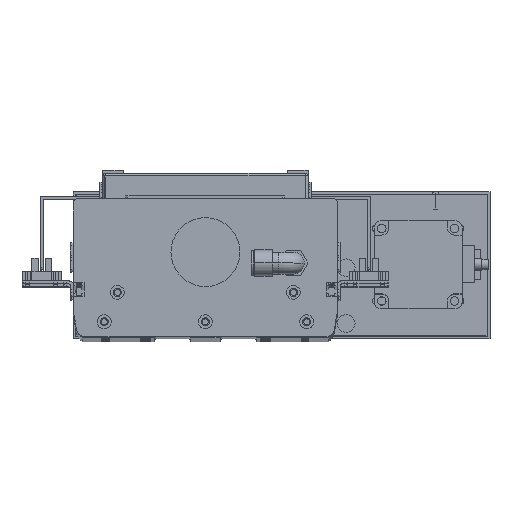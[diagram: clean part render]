
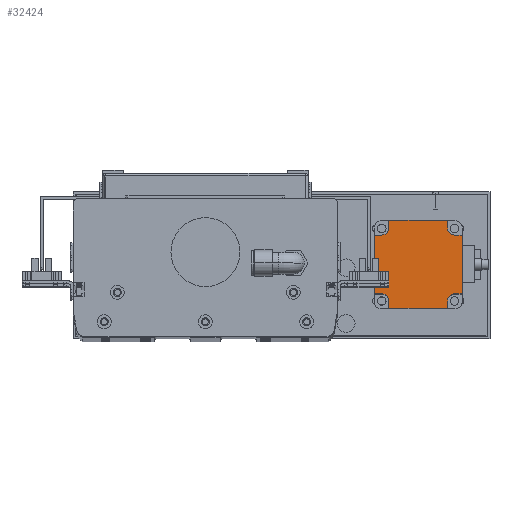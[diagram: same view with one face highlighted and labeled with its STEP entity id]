
A CAD part, top view. The second image highlights one B-rep face of the part: STEP entity #32424.
In plain terms, the highlighted planar face has unit normal (0, 0, 1).
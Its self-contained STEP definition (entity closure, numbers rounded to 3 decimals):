
#32293 = EDGE_CURVE ( 'NONE', #32296, #32874, #47461, .T. ) ;
#32296 = VERTEX_POINT ( 'NONE', #47479 ) ;
#32424 = ADVANCED_FACE ( 'NONE', ( #47800 ), #47799, .F. ) ;
#32427 = EDGE_LOOP ( 'NONE', ( #32428, #32742, #32901, #32781, #32800, #32902, #32903, #32915, #32919, #32775, #32870, #32739, #32889, #32911, #32885, #32848 ) ) ;
#32428 = ORIENTED_EDGE ( 'NONE', *, *, #32782, .T. ) ;
#32726 = VERTEX_POINT ( 'NONE', #48140 ) ;
#32735 = EDGE_CURVE ( 'NONE', #32726, #33102, #48138, .T. ) ;
#32739 = ORIENTED_EDGE ( 'NONE', *, *, #32740, .F. ) ;
#32740 = EDGE_CURVE ( 'NONE', #32874, #32872, #48268, .T. ) ;
#32742 = ORIENTED_EDGE ( 'NONE', *, *, #32908, .F. ) ;
#32746 = EDGE_CURVE ( 'NONE', #32866, #32909, #48269, .T. ) ;
#32760 = EDGE_CURVE ( 'NONE', #33102, #32898, #48203, .T. ) ;
#32762 = VERTEX_POINT ( 'NONE', #48199 ) ;
#32766 = VERTEX_POINT ( 'NONE', #48193 ) ;
#32774 = VERTEX_POINT ( 'NONE', #48188 ) ;
#32775 = ORIENTED_EDGE ( 'NONE', *, *, #32797, .F. ) ;
#32781 = ORIENTED_EDGE ( 'NONE', *, *, #32928, .F. ) ;
#32782 = EDGE_CURVE ( 'NONE', #32909, #32766, #48166, .T. ) ;
#32797 = EDGE_CURVE ( 'NONE', #32798, #32774, #48537, .T. ) ;
#32798 = VERTEX_POINT ( 'NONE', #48533 ) ;
#32800 = ORIENTED_EDGE ( 'NONE', *, *, #32826, .F. ) ;
#32826 = EDGE_CURVE ( 'NONE', #32726, #32762, #48516, .T. ) ;
#32847 = EDGE_CURVE ( 'NONE', #32912, #32866, #48479, .T. ) ;
#32848 = ORIENTED_EDGE ( 'NONE', *, *, #32746, .T. ) ;
#32866 = VERTEX_POINT ( 'NONE', #48457 ) ;
#32870 = ORIENTED_EDGE ( 'NONE', *, *, #32871, .F. ) ;
#32871 = EDGE_CURVE ( 'NONE', #32872, #32798, #48453, .T. ) ;
#32872 = VERTEX_POINT ( 'NONE', #48447 ) ;
#32874 = VERTEX_POINT ( 'NONE', #48445 ) ;
#32885 = ORIENTED_EDGE ( 'NONE', *, *, #32847, .T. ) ;
#32889 = ORIENTED_EDGE ( 'NONE', *, *, #32293, .F. ) ;
#32894 = EDGE_CURVE ( 'NONE', #32296, #32912, #48412, .T. ) ;
#32898 = VERTEX_POINT ( 'NONE', #48396 ) ;
#32901 = ORIENTED_EDGE ( 'NONE', *, *, #32923, .F. ) ;
#32902 = ORIENTED_EDGE ( 'NONE', *, *, #32735, .T. ) ;
#32903 = ORIENTED_EDGE ( 'NONE', *, *, #32760, .T. ) ;
#32908 = EDGE_CURVE ( 'NONE', #32922, #32766, #48394, .T. ) ;
#32909 = VERTEX_POINT ( 'NONE', #48390 ) ;
#32911 = ORIENTED_EDGE ( 'NONE', *, *, #32894, .T. ) ;
#32912 = VERTEX_POINT ( 'NONE', #48389 ) ;
#32915 = ORIENTED_EDGE ( 'NONE', *, *, #32917, .T. ) ;
#32916 = VERTEX_POINT ( 'NONE', #48379 ) ;
#32917 = EDGE_CURVE ( 'NONE', #32898, #32916, #48376, .T. ) ;
#32919 = ORIENTED_EDGE ( 'NONE', *, *, #32926, .T. ) ;
#32921 = VERTEX_POINT ( 'NONE', #48366 ) ;
#32922 = VERTEX_POINT ( 'NONE', #48365 ) ;
#32923 = EDGE_CURVE ( 'NONE', #32921, #32922, #48364, .T. ) ;
#32926 = EDGE_CURVE ( 'NONE', #32916, #32774, #48350, .T. ) ;
#32928 = EDGE_CURVE ( 'NONE', #32762, #32921, #48345, .T. ) ;
#33102 = VERTEX_POINT ( 'NONE', #48818 ) ;
#47459 = DIRECTION ( 'NONE',  ( 1., 0., 0. ) ) ;
#47460 = CARTESIAN_POINT ( 'NONE',  ( 111.729, 42.18, -340.5 ) ) ;
#47461 = LINE ( 'NONE', #47460, #47481 ) ;
#47479 = CARTESIAN_POINT ( 'NONE',  ( 111.729, 42.18, -340.5 ) ) ;
#47481 = VECTOR ( 'NONE', #47459, 1000. ) ;
#47799 = PLANE ( 'NONE',  #47831 ) ;
#47800 = FACE_OUTER_BOUND ( 'NONE', #32427, .T. ) ;
#47827 = DIRECTION ( 'NONE',  ( 0., -1., 0. ) ) ;
#47828 = DIRECTION ( 'NONE',  ( 0., 0., -1. ) ) ;
#47830 = CARTESIAN_POINT ( 'NONE',  ( 111.729, 52.18, -340.5 ) ) ;
#47831 = AXIS2_PLACEMENT_3D ( 'NONE', #47830, #47828, #47827 ) ;
#48135 = DIRECTION ( 'NONE',  ( 0., 1., 0. ) ) ;
#48136 = VECTOR ( 'NONE', #48135, 1000. ) ;
#48137 = CARTESIAN_POINT ( 'NONE',  ( 171.729, -7.82, -340.5 ) ) ;
#48138 = LINE ( 'NONE', #48137, #48136 ) ;
#48140 = CARTESIAN_POINT ( 'NONE',  ( 171.729, 2.18, -340.5 ) ) ;
#48162 = DIRECTION ( 'NONE',  ( 0., -1., 0. ) ) ;
#48163 = VECTOR ( 'NONE', #48162, 1000. ) ;
#48165 = CARTESIAN_POINT ( 'NONE',  ( 121.729, -2.82, -340.5 ) ) ;
#48166 = LINE ( 'NONE', #48165, #48163 ) ;
#48188 = CARTESIAN_POINT ( 'NONE',  ( 161.729, 52.18, -340.5 ) ) ;
#48193 = CARTESIAN_POINT ( 'NONE',  ( 121.729, -7.82, -340.5 ) ) ;
#48199 = CARTESIAN_POINT ( 'NONE',  ( 166.729, 2.18, -340.5 ) ) ;
#48200 = DIRECTION ( 'NONE',  ( -1., 0., 0. ) ) ;
#48201 = VECTOR ( 'NONE', #48200, 1000. ) ;
#48202 = CARTESIAN_POINT ( 'NONE',  ( 171.729, 42.18, -340.5 ) ) ;
#48203 = LINE ( 'NONE', #48202, #48201 ) ;
#48232 = DIRECTION ( 'NONE',  ( 0., -1., 0. ) ) ;
#48233 = DIRECTION ( 'NONE',  ( 0., 0., -1. ) ) ;
#48234 = CARTESIAN_POINT ( 'NONE',  ( 116.729, -2.82, -340.5 ) ) ;
#48235 = AXIS2_PLACEMENT_3D ( 'NONE', #48234, #48233, #48232 ) ;
#48265 = DIRECTION ( 'NONE',  ( 0., 1., 0. ) ) ;
#48266 = DIRECTION ( 'NONE',  ( 0., 0., 1. ) ) ;
#48267 = AXIS2_PLACEMENT_3D ( 'NONE', #48273, #48266, #48265 ) ;
#48268 = CIRCLE ( 'NONE', #48267, 5. ) ;
#48269 = CIRCLE ( 'NONE', #48235, 5. ) ;
#48273 = CARTESIAN_POINT ( 'NONE',  ( 116.729, 47.18, -340.5 ) ) ;
#48337 = DIRECTION ( 'NONE',  ( 0., 1., 0. ) ) ;
#48338 = DIRECTION ( 'NONE',  ( 0., 0., 1. ) ) ;
#48342 = CARTESIAN_POINT ( 'NONE',  ( 166.729, -2.82, -340.5 ) ) ;
#48344 = AXIS2_PLACEMENT_3D ( 'NONE', #48342, #48338, #48337 ) ;
#48345 = CIRCLE ( 'NONE', #48344, 5. ) ;
#48347 = DIRECTION ( 'NONE',  ( 0., 1., 0. ) ) ;
#48348 = VECTOR ( 'NONE', #48347, 1000. ) ;
#48349 = CARTESIAN_POINT ( 'NONE',  ( 161.729, 47.18, -340.5 ) ) ;
#48350 = LINE ( 'NONE', #48349, #48348 ) ;
#48361 = DIRECTION ( 'NONE',  ( 0., -1., 0. ) ) ;
#48362 = VECTOR ( 'NONE', #48361, 1000. ) ;
#48363 = CARTESIAN_POINT ( 'NONE',  ( 161.729, -2.82, -340.5 ) ) ;
#48364 = LINE ( 'NONE', #48363, #48362 ) ;
#48365 = CARTESIAN_POINT ( 'NONE',  ( 161.729, -7.82, -340.5 ) ) ;
#48366 = CARTESIAN_POINT ( 'NONE',  ( 161.729, -2.82, -340.5 ) ) ;
#48372 = DIRECTION ( 'NONE',  ( 0., -1., 0. ) ) ;
#48373 = DIRECTION ( 'NONE',  ( 0., 0., -1. ) ) ;
#48374 = CARTESIAN_POINT ( 'NONE',  ( 166.729, 47.18, -340.5 ) ) ;
#48375 = AXIS2_PLACEMENT_3D ( 'NONE', #48374, #48373, #48372 ) ;
#48376 = CIRCLE ( 'NONE', #48375, 5. ) ;
#48379 = CARTESIAN_POINT ( 'NONE',  ( 161.729, 47.18, -340.5 ) ) ;
#48389 = CARTESIAN_POINT ( 'NONE',  ( 111.729, 2.18, -340.5 ) ) ;
#48390 = CARTESIAN_POINT ( 'NONE',  ( 121.729, -2.82, -340.5 ) ) ;
#48391 = DIRECTION ( 'NONE',  ( -1., 0., 0. ) ) ;
#48392 = VECTOR ( 'NONE', #48391, 1000. ) ;
#48393 = CARTESIAN_POINT ( 'NONE',  ( 171.729, -7.82, -340.5 ) ) ;
#48394 = LINE ( 'NONE', #48393, #48392 ) ;
#48396 = CARTESIAN_POINT ( 'NONE',  ( 166.729, 42.18, -340.5 ) ) ;
#48409 = DIRECTION ( 'NONE',  ( 0., -1., 0. ) ) ;
#48410 = VECTOR ( 'NONE', #48409, 1000. ) ;
#48411 = CARTESIAN_POINT ( 'NONE',  ( 111.729, 52.18, -340.5 ) ) ;
#48412 = LINE ( 'NONE', #48411, #48410 ) ;
#48445 = CARTESIAN_POINT ( 'NONE',  ( 116.729, 42.18, -340.5 ) ) ;
#48447 = CARTESIAN_POINT ( 'NONE',  ( 121.729, 47.18, -340.5 ) ) ;
#48449 = DIRECTION ( 'NONE',  ( 0., 1., 0. ) ) ;
#48450 = VECTOR ( 'NONE', #48449, 1000. ) ;
#48452 = CARTESIAN_POINT ( 'NONE',  ( 121.729, 47.18, -340.5 ) ) ;
#48453 = LINE ( 'NONE', #48452, #48450 ) ;
#48457 = CARTESIAN_POINT ( 'NONE',  ( 116.729, 2.18, -340.5 ) ) ;
#48476 = DIRECTION ( 'NONE',  ( 1., 0., 0. ) ) ;
#48477 = VECTOR ( 'NONE', #48476, 1000. ) ;
#48478 = CARTESIAN_POINT ( 'NONE',  ( 111.729, 2.18, -340.5 ) ) ;
#48479 = LINE ( 'NONE', #48478, #48477 ) ;
#48513 = DIRECTION ( 'NONE',  ( -1., 0., 0. ) ) ;
#48514 = VECTOR ( 'NONE', #48513, 1000. ) ;
#48515 = CARTESIAN_POINT ( 'NONE',  ( 171.729, 2.18, -340.5 ) ) ;
#48516 = LINE ( 'NONE', #48515, #48514 ) ;
#48533 = CARTESIAN_POINT ( 'NONE',  ( 121.729, 52.18, -340.5 ) ) ;
#48534 = DIRECTION ( 'NONE',  ( 1., 0., 0. ) ) ;
#48535 = VECTOR ( 'NONE', #48534, 1000. ) ;
#48536 = CARTESIAN_POINT ( 'NONE',  ( 111.729, 52.18, -340.5 ) ) ;
#48537 = LINE ( 'NONE', #48536, #48535 ) ;
#48818 = CARTESIAN_POINT ( 'NONE',  ( 171.729, 42.18, -340.5 ) ) ;
